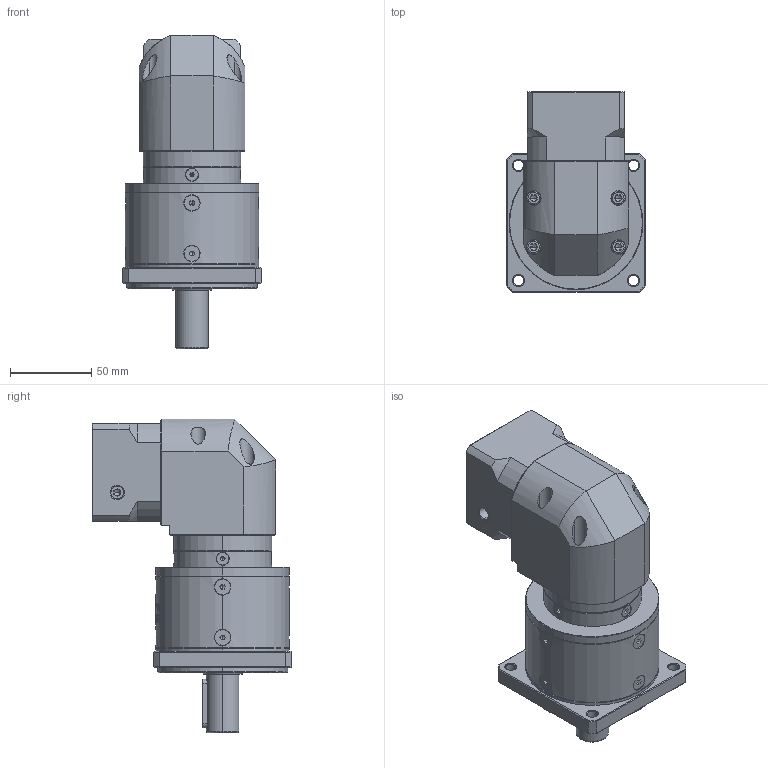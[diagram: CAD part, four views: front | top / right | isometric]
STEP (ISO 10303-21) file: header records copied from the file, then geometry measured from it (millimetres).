
FILE_DESCRIPTION (( 'STEP AP214' ), '1' );
FILE_NAME ('ZFR080-D20-L2-P2-11-50-70-M4.step', '2023-08-25T07:17:44', ( '' ), ( '' ), 'SwSTEP 2.0', 'SolidWorks 2016', '' );
FILE_SCHEMA (( 'AUTOMOTIVE_DESIGN' ));
Length unit declared in the file: millimetre
Products named in the file (1): ZFR080-D20-L2-P2-11-50-70-M4
Bounding box: 85 x 122.7 x 192.5 mm (x, y, z)
Volume: 785690 mm3; surface area: 101889.7 mm2
Topology: 17 solids, 18 shells, 2441 faces, 6389 edges, 4063 vertices
Faces by surface type: plane 1176, cylinder 442, bspline 394, cone 381, torus 48
Entity records: 124750 total; most frequent: CARTESIAN_POINT 42612, ORIENTED_EDGE 12686, DIRECTION 9851, EDGE_CURVE 6343, VERTEX_POINT 4063, LINE 3355, VECTOR 3355, AXIS2_PLACEMENT_3D 3248
